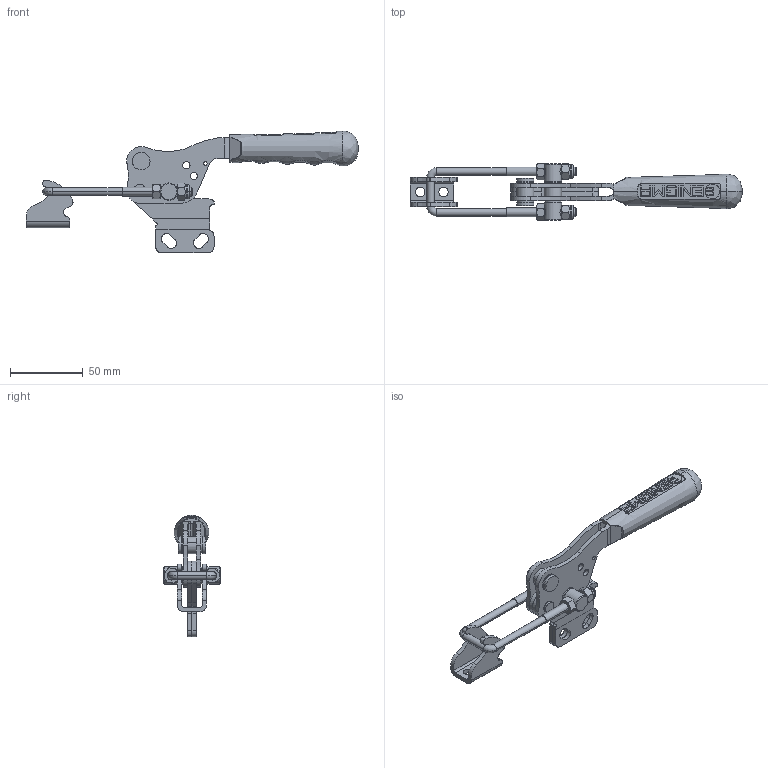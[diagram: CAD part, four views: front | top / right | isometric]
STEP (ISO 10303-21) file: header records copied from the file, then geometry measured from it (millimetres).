
FILE_DESCRIPTION (( 'STEP AP203' ), '1' );
FILE_NAME ('13106_D.STEP', '2022-11-30T12:01:25', ( '' ), ( '' ), 'SwSTEP 2.0', 'SolidWorks 2023', '' );
FILE_SCHEMA (( 'CONFIG_CONTROL_DESIGN' ));
Length unit declared in the file: millimetre
Products named in the file (13): M6_SOMUN_1; Mirror13206_ALMANYA_Y_G_X2_00d6_X0_VDE_10.08.22-16.56_1; M6_KK_1; 13106_D; _X2_00d8_X0_12xM6_U_KANCA_M_X2_0130_X0_L_X2_0130_X0__OTOMATI_Varsay_X2_0131_X0_lan_1; C90_Yeni_Tutamak_Varsay_X2_0131_X0_lan_1; Mirror13206_ALMANYA_HAREKET_KOLU_10.08.22-17.03_1; 5x17_PER_X2_00c70130_X0_N_Varsay_X2_0131_X0_lan_1; 13206_ALMANYA_Y_G_X2_00d6_X0_VDE_10.08.22-16.56_1; M6_F_X2_0130_X0_BERL_X2_0130_X0__SOMUN_1; 13206_ALMANYA_HAREKET_KOLU_10.08.22-17.03_1; _X2_00d8_X0_12x18,7_OTOMAT_1; M6x50_U_KANCA_Varsayılan
Assembly tree (14 placements, depth 2):
  13106_D
    13206_ALMANYA_Y_G_X2_00d6_X0_VDE_10.08.22-16.56_1
    13206_ALMANYA_HAREKET_KOLU_10.08.22-17.03_1
    C90_Yeni_Tutamak_Varsay_X2_0131_X0_lan_1
    M6_KK_1
    Mirror13206_ALMANYA_HAREKET_KOLU_10.08.22-17.03_1
    Mirror13206_ALMANYA_Y_G_X2_00d6_X0_VDE_10.08.22-16.56_1
    _X2_00d8_X0_12xM6_U_KANCA_M_X2_0130_X0_L_X2_0130_X0__OTOMATI_Varsay_X2_0131_X0_lan_1
    _X2_00d8_X0_12x18,7_OTOMAT_1
    5x17_PER_X2_00c70130_X0_N_Varsay_X2_0131_X0_lan_1
    M6_F_X2_0130_X0_BERL_X2_0130_X0__SOMUN_1  x2
    M6_SOMUN_1  x2
    M6x50_U_KANCA_Varsayılan
Bounding box: 228.15 x 39.47 x 83.49 mm (x, y, z)
Volume: 68334.2 mm3; surface area: 46011 mm2
Topology: 14 solids, 14 shells, 599 faces, 1540 edges, 987 vertices
Faces by surface type: plane 285, cylinder 190, bspline 66, cone 54, torus 4
Entity records: 32506 total; most frequent: CARTESIAN_POINT 17885, ORIENTED_EDGE 2832, DIRECTION 2631, EDGE_CURVE 1416, AXIS2_PLACEMENT_3D 939, VERTEX_POINT 913, VECTOR 753, LINE 753
